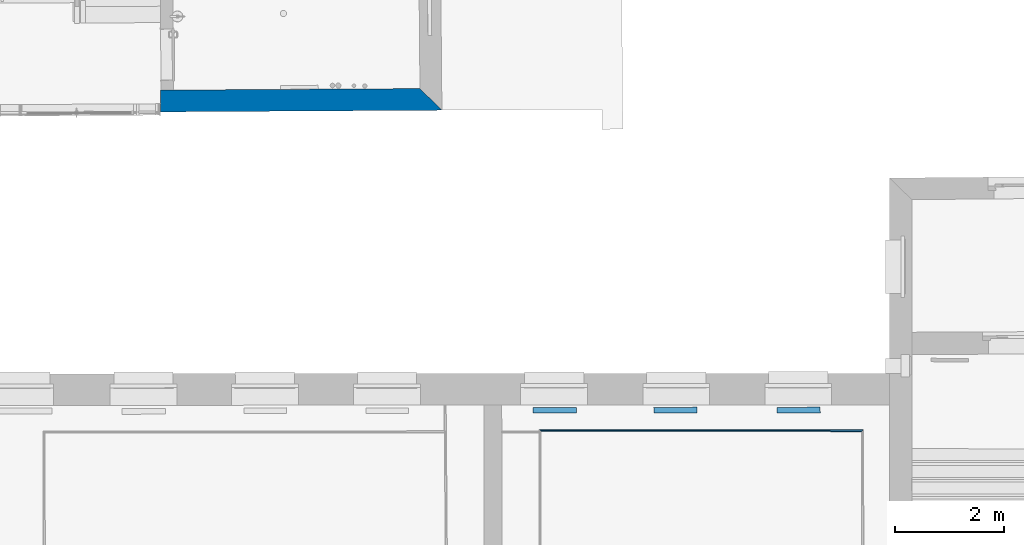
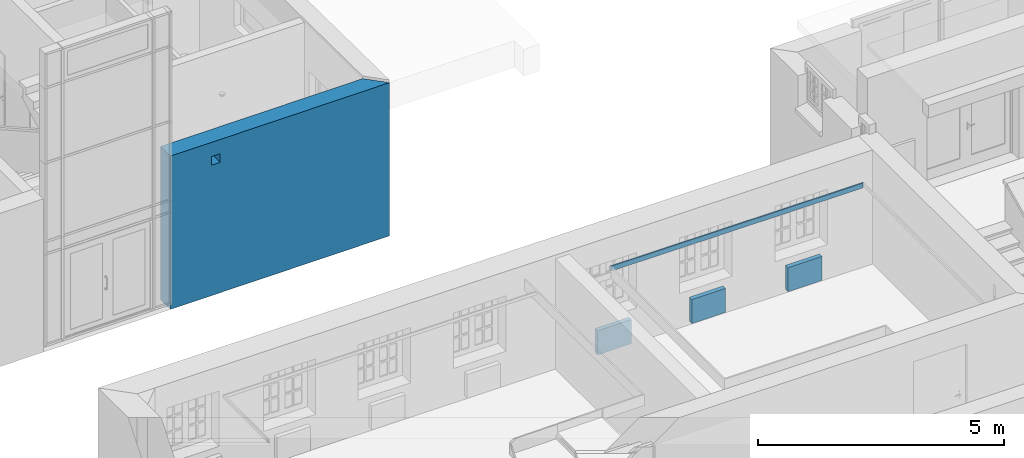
# One storey, part 27 of 196: 5 walls, 1 opening.
"""IFC2X3 building model written with IfcOpenShell, lengths in metres."""

import ifcopenshell
import ifcopenshell.guid

model = None  # the IFC model being written
_history = None  # IfcOwnerHistory: only IFC2X3 demands one
_inside = {}  # id of a spatial element -> (the spatial element, [elements in it])
_under = {}  # id of a project, library or spatial element -> (it, [spatial elements below it])
_declared = {}  # id of a project -> (the project, [libraries it declares])
_typed = {}  # id of a type object -> (the type object, [elements of that type])
_made_of = {}  # id of a material, layer set ... -> (it, [elements and type objects made of it])


def new_model(schema):
    """Start an empty IFC model of exactly this schema.

    Asked for "IFC4X3", IfcOpenShell would pick the latest addendum, in which some entities
    have other attributes; the version numbers below select the first issue.
    IFC2X3 requires an IfcOwnerHistory on every rooted entity: one is made here for all.
    """
    global model, _history
    if schema == "IFC4X3":
        model = ifcopenshell.file(schema_version=(4, 3, 0, 0))
    else:
        model = ifcopenshell.file(schema=schema)
    _inside.clear()
    _under.clear()
    _declared.clear()
    _typed.clear()
    _made_of.clear()
    _history = None
    if model.schema == "IFC2X3":
        org = make("IfcOrganization", Name="unknown")
        user = make(
            "IfcPersonAndOrganization",
            ThePerson=make("IfcPerson", FamilyName="unknown"),
            TheOrganization=org,
        )
        app = make(
            "IfcApplication",
            ApplicationDeveloper=org,
            Version="unknown",
            ApplicationFullName="unknown",
            ApplicationIdentifier="unknown",
        )
        _history = make(
            "IfcOwnerHistory",
            OwningUser=user,
            OwningApplication=app,
            ChangeAction="ADDED",
            CreationDate=0,
        )
    return model


def make(cls, **values):
    """One entity of the class cls with the attributes given. An attribute that is None is left unset."""
    return model.create_entity(
        cls, **{name: value for name, value in values.items() if value is not None}
    )


def entity(cls, *values):
    """Any entity or typed value of the class cls, its attributes in the order of the schema. None: left unset."""
    e = model.create_entity(cls)
    for i, value in enumerate(values):
        if value is not None:
            e[i] = value
    return e


def rooted(cls, **values):
    """An entity with a GlobalId (a new one), such as an element, a storey or a relation."""
    return make(cls, GlobalId=ifcopenshell.guid.new(), OwnerHistory=_history, **values)


def si_unit(unit_type, name, prefix=None):
    """IfcSIUnit, for example si_unit("LENGTHUNIT", "METRE", prefix="MILLI")."""
    return make("IfcSIUnit", UnitType=unit_type, Prefix=prefix, Name=name)


def converted_unit(unit_type, name, factor, base, dimensions=None, offset=None):
    """IfcConversionBasedUnit, such as the inch: factor (a typed value) times the base unit."""
    return make(
        "IfcConversionBasedUnit"
        if offset is None
        else "IfcConversionBasedUnitWithOffset",
        ConversionOffset=offset,
        Dimensions=None
        if dimensions is None
        else entity("IfcDimensionalExponents", *dimensions),
        UnitType=unit_type,
        Name=name,
        ConversionFactor=make(
            "IfcMeasureWithUnit", ValueComponent=factor, UnitComponent=base
        ),
    )


def derived_unit(unit_type, elements):
    """IfcDerivedUnit: a product of units, each with its exponent."""
    return make(
        "IfcDerivedUnit",
        Elements=[
            make("IfcDerivedUnitElement", Unit=unit, Exponent=power)
            for unit, power in elements
        ],
        UnitType=unit_type,
    )


def money_unit(currency):
    """IfcMonetaryUnit."""
    return make("IfcMonetaryUnit", Currency=currency)


def assignment(units):
    """IfcUnitAssignment: the units of a project."""
    return None if units is None else make("IfcUnitAssignment", Units=units)


def point(xyz):
    """IfcCartesianPoint."""
    return None if xyz is None else make("IfcCartesianPoint", Coordinates=xyz)


def direction(xyz):
    """IfcDirection."""
    return None if xyz is None else make("IfcDirection", DirectionRatios=xyz)


def frame(location, z_axis=None, x_axis=None):
    """IfcAxis2Placement3D, a coordinate frame: its origin and axes. An axis left out is left unset."""
    return make(
        "IfcAxis2Placement3D",
        Location=point(location),
        Axis=direction(z_axis),
        RefDirection=direction(x_axis),
    )


def frame_2d(location, x_axis=None):
    """IfcAxis2Placement2D, a coordinate frame in the plane: its origin and x axis."""
    return make(
        "IfcAxis2Placement2D", Location=point(location), RefDirection=direction(x_axis)
    )


def origin_with_axes():
    """The frame at (0, 0, 0) with the z axis (0, 0, 1) and the x axis (1, 0, 0) written out."""
    return frame((0.0, 0.0, 0.0), z_axis=(0.0, 0.0, 1.0), x_axis=(1.0, 0.0, 0.0))


def origin_2d_with_axis():
    """The frame at (0, 0) in the plane with the x axis (1, 0) written out."""
    return frame_2d((0.0, 0.0), x_axis=(1.0, 0.0))


def place(relative_to, where):
    """IfcLocalPlacement: puts the frame where relative to a parent placement (None: the world)."""
    return make(
        "IfcLocalPlacement", PlacementRelTo=relative_to, RelativePlacement=where
    )


def context(
    kind, dimensions, precision=None, world=None, true_north=None, identifier=None
):
    """IfcGeometricRepresentationContext, for example the 3D "Model" context."""
    return make(
        "IfcGeometricRepresentationContext",
        ContextIdentifier=identifier,
        ContextType=kind,
        CoordinateSpaceDimension=dimensions,
        Precision=precision,
        WorldCoordinateSystem=world,
        TrueNorth=true_north,
    )


def subcontext(parent, identifier, kind, view, scale=None):
    """IfcGeometricRepresentationSubContext, for example "Body" below "Model"."""
    return make(
        "IfcGeometricRepresentationSubContext",
        ContextIdentifier=identifier,
        ContextType=kind,
        ParentContext=parent,
        TargetScale=scale,
        TargetView=view,
    )


def project(units=None, contexts=None):
    """IfcProject with its units and contexts."""
    return rooted(
        "IfcProject",
        Name="project",
        RepresentationContexts=contexts,
        UnitsInContext=assignment(units),
    )


def spatial(cls, under=None, at=None, **own):
    """A site, building, storey or space (cls), placed at a placement, below another one or the project."""
    s = rooted(cls, ObjectPlacement=at, **own)
    if under is not None:
        _under.setdefault(under.id(), (under, []))[1].append(s)
    return s


def polyline(points):
    """IfcPolyline through the points."""
    return make("IfcPolyline", Points=[point(p) for p in points])


def profile(cls, at=None, kind="AREA", **sizes):
    """A parametric profile (cls). Its sizes go by their IFC names, for example OverallWidth=200.0."""
    return make(cls, ProfileType=kind, Position=at, **sizes)


def rectangle(**sizes):
    """IfcRectangleProfileDef."""
    return profile("IfcRectangleProfileDef", **sizes)


def outline(outer, holes=None, kind="AREA"):
    """IfcArbitraryClosedProfileDef: a profile drawn as a closed curve; with holes, ...WithVoids."""
    if holes is None:
        return make("IfcArbitraryClosedProfileDef", ProfileType=kind, OuterCurve=outer)
    return make(
        "IfcArbitraryProfileDefWithVoids",
        ProfileType=kind,
        OuterCurve=outer,
        InnerCurves=holes,
    )


def extrude(swept, where, along, depth):
    """IfcExtrudedAreaSolid: the profile swept, set in the frame where, extruded along a direction by depth."""
    return make(
        "IfcExtrudedAreaSolid",
        SweptArea=swept,
        Position=where,
        ExtrudedDirection=direction(along),
        Depth=depth,
    )


def shape(context_of_items, identifier, shape_type, items):
    """IfcShapeRepresentation: the items that make up one representation, for example the "Body"."""
    return make(
        "IfcShapeRepresentation",
        ContextOfItems=context_of_items,
        RepresentationIdentifier=identifier,
        RepresentationType=shape_type,
        Items=items,
    )


def material(Name=None, Category=None):
    """IfcMaterial."""
    return make("IfcMaterial", Name=Name, Category=Category)


def layer(
    of_material, thickness, ventilated=None, Name=None, Category=None, Priority=None
):
    """IfcMaterialLayer: one layer of a wall or slab, of a material (None: an air gap)."""
    return make(
        "IfcMaterialLayer",
        Material=of_material,
        LayerThickness=thickness,
        IsVentilated=ventilated,
        Name=Name,
        Category=Category,
        Priority=Priority,
    )


def layer_set(layers, Name=None):
    """IfcMaterialLayerSet."""
    return make("IfcMaterialLayerSet", MaterialLayers=layers, LayerSetName=Name)


def layer_usage(for_layer_set, set_direction, sense, offset, extent=None):
    """IfcMaterialLayerSetUsage: how a layer set lies in its element."""
    return make(
        "IfcMaterialLayerSetUsage",
        ForLayerSet=for_layer_set,
        LayerSetDirection=set_direction,
        DirectionSense=sense,
        OffsetFromReferenceLine=offset,
        ReferenceExtent=extent,
    )


def made_of(thing, what):
    """Note that an element or type object is made of a material, layer set ...; save() writes the relation."""
    if what is not None:
        _made_of.setdefault(what.id(), (what, []))[1].append(thing)
    return thing


def type_object(cls, material=None, **own):
    """A type object (cls), such as IfcWallType, which elements share."""
    return made_of(rooted(cls, **own), material)


def element(
    cls,
    number,
    at=None,
    inside=None,
    cuts=None,
    type_object=None,
    material=None,
    context=None,
    identifier="Body",
    shape_type=None,
    held_by="IfcProductDefinitionShape",
    body=None,
    shapes=None,
    **own,
):
    """One element of the class cls, such as IfcWall. Its Tag is "e" and its number.

    at: its placement. inside: the storey or other place that contains it. cuts: it is an
    opening in that element (IfcRelVoidsElement). A single representation is given by context,
    identifier, shape_type and body (its items); several are given by shapes. held_by: the class
    of the entity that holds the representations. save() writes the other relations.
    """
    e = rooted(cls, Tag="e%d" % number, ObjectPlacement=at, **own)
    if body is not None:
        shapes = [shape(context, identifier, shape_type, body)]
    if shapes is not None:
        e.Representation = make(held_by, Representations=shapes)
    if inside is not None:
        _inside.setdefault(inside.id(), (inside, []))[1].append(e)
    if cuts is not None:
        rooted(
            "IfcRelVoidsElement", RelatingBuildingElement=cuts, RelatedOpeningElement=e
        )
    if type_object is not None:
        _typed.setdefault(type_object.id(), (type_object, []))[1].append(e)
    return made_of(e, material)


def aggregate(whole, parts):
    """IfcRelAggregates: a whole, such as a stair, and the parts it consists of."""
    return rooted("IfcRelAggregates", RelatingObject=whole, RelatedObjects=parts)


def save(model, path):
    """Write the relations noted so far, then the file.

    IfcRelAggregates (storeys below a building ...), IfcRelContainedInSpatialStructure (elements
    in a storey), IfcRelDefinesByType, IfcRelAssociatesMaterial and IfcRelDeclares: one each for
    every whole, place, type object, material and project.
    """
    for whole, parts in _under.values():
        aggregate(whole, parts)
    for where, things in _inside.values():
        rooted(
            "IfcRelContainedInSpatialStructure",
            RelatedElements=things,
            RelatingStructure=where,
        )
    for kind, things in _typed.values():
        rooted("IfcRelDefinesByType", RelatedObjects=things, RelatingType=kind)
    for what, things in _made_of.values():
        rooted("IfcRelAssociatesMaterial", RelatedObjects=things, RelatingMaterial=what)
    for by, libraries in _declared.values():
        rooted("IfcRelDeclares", RelatingContext=by, RelatedDefinitions=libraries)
    model.write(path)


model = new_model("IFC2X3")

# Units and contexts
model_context = context("Model", 3, precision=1e-05, world=origin_with_axes(), true_north=direction((0.0, 1.0)))
body_context = subcontext(model_context, "Body", "Model", "MODEL_VIEW")
ifc_project = project(units=[si_unit("LENGTHUNIT", "METRE"), si_unit("AREAUNIT", "SQUARE_METRE"), si_unit("VOLUMEUNIT", "CUBIC_METRE"), converted_unit("PLANEANGLEUNIT", "DEGREE", entity("IfcPlaneAngleMeasure", 0.0174532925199), si_unit("PLANEANGLEUNIT", "RADIAN"), dimensions=[0, 0, 0, 0, 0, 0, 0]), money_unit("EUR"), converted_unit("TIMEUNIT", "Year", entity("IfcTimeMeasure", 31556926.0), si_unit("TIMEUNIT", "SECOND"), dimensions=[0, 0, 1, 0, 0, 0, 0]), si_unit("MASSUNIT", "GRAM", prefix="KILO"), si_unit("THERMODYNAMICTEMPERATUREUNIT", "DEGREE_CELSIUS"), si_unit("LUMINOUSINTENSITYUNIT", "LUMEN"), si_unit("ENERGYUNIT", "JOULE", prefix="MEGA"), derived_unit("THERMALCONDUCTANCEUNIT", [(si_unit("POWERUNIT", "WATT"), 1), (si_unit("LENGTHUNIT", "METRE"), -1), (si_unit("THERMODYNAMICTEMPERATUREUNIT", "KELVIN"), -1)]), derived_unit("SPECIFICHEATCAPACITYUNIT", [(si_unit("ENERGYUNIT", "JOULE"), 1), (si_unit("MASSUNIT", "GRAM", prefix="KILO"), -1), (si_unit("THERMODYNAMICTEMPERATUREUNIT", "KELVIN"), -1)]), derived_unit("MASSDENSITYUNIT", [(si_unit("MASSUNIT", "GRAM", prefix="KILO"), 1), (si_unit("VOLUMEUNIT", "CUBIC_METRE"), -1)])], contexts=[model_context])

# Site, building, storey
site_placement = place(None, origin_with_axes())
site = spatial("IfcSite", under=ifc_project, at=site_placement, Name="Gelände", CompositionType="ELEMENT")
building_placement = place(site_placement, origin_with_axes())
building = spatial("IfcBuilding", under=site, at=building_placement, Name="Gebäude", CompositionType="ELEMENT")
storey_placement = place(building_placement, frame((0.0, 0.0, -3.0), z_axis=(0.0, 0.0, 1.0), x_axis=(1.0, 0.0, 0.0)))
storey = spatial("IfcBuildingStorey", under=building, at=storey_placement, Name="KELLERGESCHOSS", CompositionType="ELEMENT", Elevation=-3.0)

# Wall, opening
ifc_material_1 = material(Name="05_ALLGEMEIN - TRAGENDE BAUTEILE")
ifc_layer_1 = layer(ifc_material_1, 0.4, ventilated="UNKNOWN")
ifc_layer_set_1 = layer_set([ifc_layer_1], Name="05_ALLGEMEIN - TRAGENDE BAUTEILE 0.4")
ifc_layer_usage_1 = layer_usage(ifc_layer_set_1, "AXIS2", "NEGATIVE", 0.4)
wall_type_1 = type_object("IfcWallType", Name="05_ALLGEMEIN - TRAGENDE BAUTEILE 400", PredefinedType="ELEMENTEDWALL")
wall_1_placement = place(storey_placement, frame((-23.6482681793, 30.9080833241, 0.25), z_axis=(0.0, 0.0, 1.0), x_axis=(0.99998208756, 0.00598536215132, 0.0)))
wall_1 = element("IfcWallStandardCase", 1, at=wall_1_placement, inside=storey, type_object=wall_type_1, material=ifc_layer_usage_1, Name="Wand-030", ObjectType="ELEMENTEDWALL", context=body_context, shape_type="SweptSolid", body=[
    extrude(outline(polyline([(0.0, 0.0), (5.16895637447, 0.0), (4.76769664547, 0.4), (0.0, 0.4), (0.0, 0.0)])), origin_with_axes(), (0.0, 0.0, 1.0), 3.81),
])
opening_placement = place(wall_1_placement, frame((1.0683059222, 0.0, 3.24234366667), z_axis=(0.0, 0.0, 1.0), x_axis=(1.0, 0.0, 0.0)))
element("IfcOpeningElement", 2, at=opening_placement, cuts=wall_1, Name="Fenster-015", context=body_context, shape_type="SweptSolid", body=[
    extrude(rectangle(XDim=0.20838411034, YDim=0.215886, at=origin_2d_with_axis()), frame((0.0, 0.208421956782, 0.107943), z_axis=(0.0, -1.0, 0.0), x_axis=(-1.0, 0.0, 0.0)), (0.0, 0.0, 1.0), 0.608421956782),
    extrude(rectangle(XDim=0.20838411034, YDim=0.215886, at=origin_2d_with_axis()), frame((0.0, 0.208421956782, 0.107943), z_axis=(0.0, 1.0, 0.0), x_axis=(-1.0, 0.0, 0.0)), (0.0, 0.0, 1.0), 0.591578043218),
])

# Walls
ifc_material_2 = material(Name="43_Gipskarton")
ifc_layer_2 = layer(ifc_material_2, 0.03, ventilated="UNKNOWN")
ifc_layer_set_2 = layer_set([ifc_layer_2], Name="43_Gipskarton 0.03")
ifc_layer_usage_2 = layer_usage(ifc_layer_set_2, "AXIS2", "NEGATIVE", 0.0)
wall_type_2 = type_object("IfcWallType", Name="43_Gipskarton 30", PredefinedType="ELEMENTEDWALL")
wall_2_placement = place(storey_placement, frame((-10.7620698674, 25.0334025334, 2.32), z_axis=(0.0, 0.0, 1.0), x_axis=(-0.999999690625, 0.000786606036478, 0.0)))
element("IfcWallStandardCase", 3, at=wall_2_placement, inside=storey, type_object=wall_type_2, material=ifc_layer_usage_2, Name="Wand-046", ObjectType="ELEMENTEDWALL", context=body_context, shape_type="SweptSolid", body=[
    extrude(outline(polyline([(-0.0299481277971, -0.03), (5.9327717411, -0.03), (5.90269853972, 0.0), (0.0, 0.0), (-0.0299481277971, -0.03)])), origin_with_axes(), (0.0, 0.0, 1.0), 0.12),
])
ifc_material_3 = material(Name="01_ALLGEMEIN - BAUTEIL")
ifc_layer_3 = layer(ifc_material_3, 0.105, ventilated="UNKNOWN")
ifc_layer_set_3 = layer_set([ifc_layer_3], Name="01_ALLGEMEIN - BAUTEIL 0.105")
ifc_layer_usage_3 = layer_usage(ifc_layer_set_3, "AXIS2", "NEGATIVE", 0.105)
wall_type_3 = type_object("IfcWallType", Name="01_ALLGEMEIN - BAUTEIL 105", PredefinedType="ELEMENTEDWALL")
wall_3_placement = place(storey_placement, frame((-12.3220809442, 25.3715814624, 0.0805299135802), z_axis=(0.0, 0.0, 1.0), x_axis=(0.999985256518, 0.00543016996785, 0.0)))
element("IfcWallStandardCase", 4, at=wall_3_placement, inside=storey, type_object=wall_type_3, material=ifc_layer_usage_3, Name="Wand-036", ObjectType="ELEMENTEDWALL", context=body_context, shape_type="SweptSolid", body=[
    extrude(outline(polyline([(0.0, 0.0), (0.796503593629, 0.0), (0.796503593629, 0.105), (0.0, 0.105), (0.0, 0.0)])), origin_with_axes(), (0.0, 0.0, 1.0), 0.597873),
])
ifc_layer_usage_4 = layer_usage(ifc_layer_set_3, "AXIS2", "NEGATIVE", 0.105)
wall_4_placement = place(storey_placement, frame((-14.5855047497, 25.3707103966, 0.0805299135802), z_axis=(0.0, 0.0, 1.0), x_axis=(0.999985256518, 0.00543016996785, 0.0)))
element("IfcWallStandardCase", 5, at=wall_4_placement, inside=storey, type_object=wall_type_3, material=ifc_layer_usage_4, Name="Wand-036", ObjectType="ELEMENTEDWALL", context=body_context, shape_type="SweptSolid", body=[
    extrude(outline(polyline([(0.0, 0.0), (0.796503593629, 0.0), (0.796503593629, 0.105), (0.0, 0.105), (0.0, 0.0)])), origin_with_axes(), (0.0, 0.0, 1.0), 0.597873),
])
ifc_layer_usage_5 = layer_usage(ifc_layer_set_3, "AXIS2", "NEGATIVE", 0.105)
wall_5_placement = place(storey_placement, frame((-16.8054180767, 25.3698560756, 0.0805299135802), z_axis=(0.0, 0.0, 1.0), x_axis=(0.999985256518, 0.00543016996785, 0.0)))
element("IfcWallStandardCase", 6, at=wall_5_placement, inside=storey, type_object=wall_type_3, material=ifc_layer_usage_5, Name="Wand-036", ObjectType="ELEMENTEDWALL", context=body_context, shape_type="SweptSolid", body=[
    extrude(outline(polyline([(0.0, 0.0), (0.796503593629, 0.0), (0.796503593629, 0.105), (0.0, 0.105), (0.0, 0.0)])), origin_with_axes(), (0.0, 0.0, 1.0), 0.597873),
])

save(model, "model.ifc")
